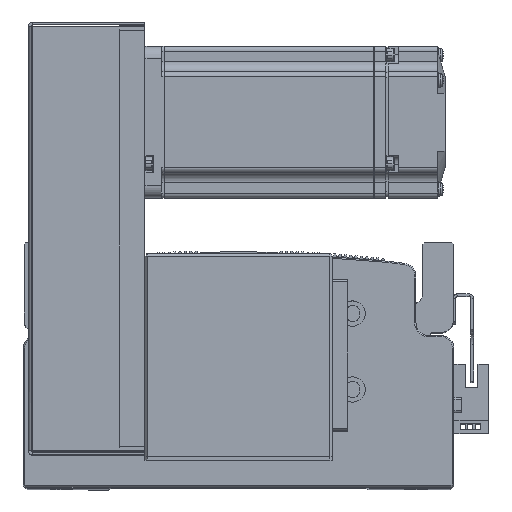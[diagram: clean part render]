
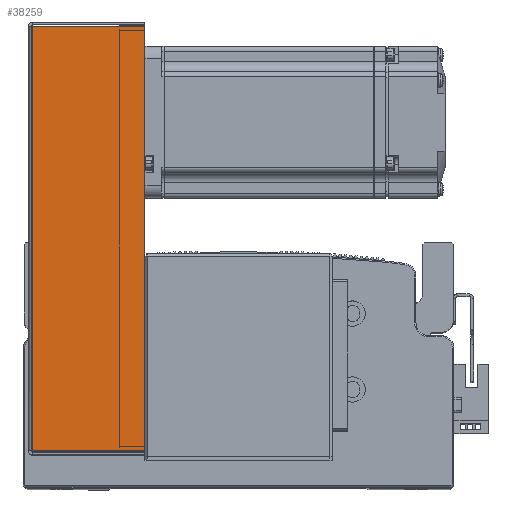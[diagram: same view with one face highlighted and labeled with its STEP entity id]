
A CAD part, top view. The second image highlights one B-rep face of the part: STEP entity #38259.
In plain terms, the highlighted planar face has unit normal (0, 0, 1) as drawn and (0, 0, -1) by its records, which use the part's own axes.
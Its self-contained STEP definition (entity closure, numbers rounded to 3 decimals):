
#1883 = FACE_OUTER_BOUND ( 'NONE', #29537, .T. ) ;
#3157 = PLANE ( 'NONE',  #70372 ) ;
#3167 = DIRECTION ( 'NONE',  ( 0., 0., 1. ) ) ;
#3169 = DIRECTION ( 'NONE',  ( 0., -1., 0. ) ) ;
#3184 = CARTESIAN_POINT ( 'NONE',  ( 0., 0., -40.5 ) ) ;
#12376 = ORIENTED_EDGE ( 'NONE', *, *, #53231, .F. ) ;
#12390 = ORIENTED_EDGE ( 'NONE', *, *, #53189, .F. ) ;
#12395 = ORIENTED_EDGE ( 'NONE', *, *, #53142, .T. ) ;
#12399 = ORIENTED_EDGE ( 'NONE', *, *, #53109, .T. ) ;
#14848 = CARTESIAN_POINT ( 'NONE',  ( -83.793, 0.737, -40.5 ) ) ;
#14882 = CARTESIAN_POINT ( 'NONE',  ( 83.793, 0.737, -40.5 ) ) ;
#14960 = CARTESIAN_POINT ( 'NONE',  ( -83.793, 45., -40.5 ) ) ;
#15096 = CARTESIAN_POINT ( 'NONE',  ( 83.793, 45., -40.5 ) ) ;
#15627 = DIRECTION ( 'NONE',  ( 1., 0., 0. ) ) ;
#15665 = CARTESIAN_POINT ( 'NONE',  ( 84.5, 45., -40.5 ) ) ;
#15722 = CARTESIAN_POINT ( 'NONE',  ( -83.793, 0., -40.5 ) ) ;
#15728 = DIRECTION ( 'NONE',  ( 0., 1., 0. ) ) ;
#16791 = LINE ( 'NONE', #15665, #16822 ) ;
#16822 = VECTOR ( 'NONE', #15627, 1000. ) ;
#17057 = LINE ( 'NONE', #15722, #17095 ) ;
#17095 = VECTOR ( 'NONE', #15728, 1000. ) ;
#17342 = LINE ( 'NONE', #21441, #17377 ) ;
#17377 = VECTOR ( 'NONE', #21418, 1000. ) ;
#17627 = VECTOR ( 'NONE', #21588, 1000. ) ;
#17633 = LINE ( 'NONE', #21664, #17627 ) ;
#21418 = DIRECTION ( 'NONE',  ( 1., 0., 0. ) ) ;
#21441 = CARTESIAN_POINT ( 'NONE',  ( 0., 0.737, -40.5 ) ) ;
#21588 = DIRECTION ( 'NONE',  ( 0., 1., 0. ) ) ;
#21664 = CARTESIAN_POINT ( 'NONE',  ( 83.793, 0., -40.5 ) ) ;
#29537 = EDGE_LOOP ( 'NONE', ( #12390, #12395, #12399, #12376 ) ) ;
#38259 = ADVANCED_FACE ( 'NONE', ( #1883 ), #3157, .F. ) ;
#53109 = EDGE_CURVE ( 'NONE', #60271, #60305, #16791, .T. ) ;
#53142 = EDGE_CURVE ( 'NONE', #60189, #60271, #17057, .T. ) ;
#53189 = EDGE_CURVE ( 'NONE', #60189, #60217, #17342, .T. ) ;
#53231 = EDGE_CURVE ( 'NONE', #60217, #60305, #17633, .T. ) ;
#60189 = VERTEX_POINT ( 'NONE', #14848 ) ;
#60217 = VERTEX_POINT ( 'NONE', #14882 ) ;
#60271 = VERTEX_POINT ( 'NONE', #14960 ) ;
#60305 = VERTEX_POINT ( 'NONE', #15096 ) ;
#70372 = AXIS2_PLACEMENT_3D ( 'NONE', #3184, #3167, #3169 ) ;
